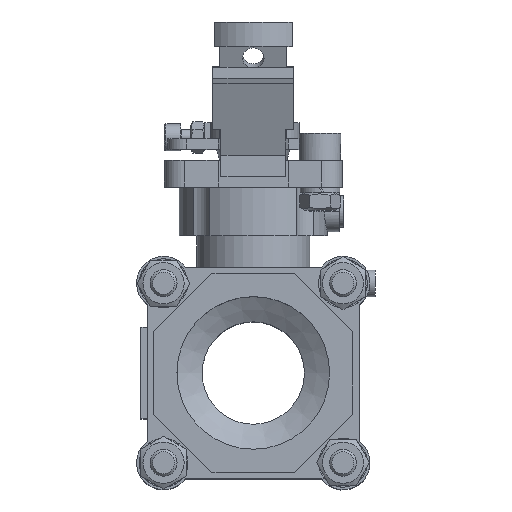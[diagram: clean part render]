
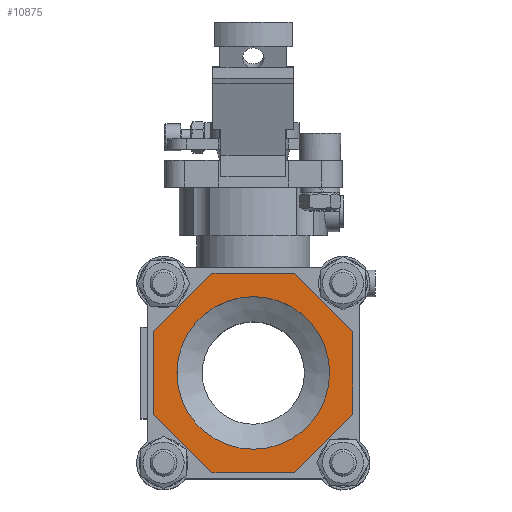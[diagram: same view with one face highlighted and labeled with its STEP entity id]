
A CAD part, top view. The second image highlights one B-rep face of the part: STEP entity #10875.
In plain terms, the highlighted planar face has unit normal (0, 0, 1).
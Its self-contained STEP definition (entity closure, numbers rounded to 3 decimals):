
#391=FACE_BOUND('',#1947,.T.);
#596=PLANE('',#11720);
#1286=FACE_OUTER_BOUND('',#1946,.T.);
#1946=EDGE_LOOP('',(#8753,#8754,#8755,#8756,#8757,#8758,#8759,#8760));
#1947=EDGE_LOOP('',(#8761,#8762));
#2570=CIRCLE('',#11695,28.328);
#2571=CIRCLE('',#11696,28.328);
#3261=LINE('',#17417,#4180);
#3263=LINE('',#17421,#4182);
#3265=LINE('',#17425,#4184);
#3267=LINE('',#17429,#4186);
#3269=LINE('',#17433,#4188);
#3271=LINE('',#17437,#4190);
#3273=LINE('',#17441,#4192);
#3275=LINE('',#17444,#4194);
#4180=VECTOR('',#13689,10.);
#4182=VECTOR('',#13693,10.);
#4184=VECTOR('',#13697,10.);
#4186=VECTOR('',#13701,10.);
#4188=VECTOR('',#13705,10.);
#4190=VECTOR('',#13709,10.);
#4192=VECTOR('',#13713,10.);
#4194=VECTOR('',#13717,10.);
#5201=VERTEX_POINT('',#17382);
#5202=VERTEX_POINT('',#17384);
#5210=VERTEX_POINT('',#17414);
#5211=VERTEX_POINT('',#17416);
#5212=VERTEX_POINT('',#17420);
#5213=VERTEX_POINT('',#17424);
#5214=VERTEX_POINT('',#17428);
#5215=VERTEX_POINT('',#17432);
#5216=VERTEX_POINT('',#17436);
#5217=VERTEX_POINT('',#17440);
#6472=EDGE_CURVE('',#5202,#5201,#2570,.T.);
#6473=EDGE_CURVE('',#5201,#5202,#2571,.T.);
#6490=EDGE_CURVE('',#5211,#5210,#3261,.T.);
#6492=EDGE_CURVE('',#5212,#5211,#3263,.T.);
#6494=EDGE_CURVE('',#5213,#5212,#3265,.T.);
#6496=EDGE_CURVE('',#5214,#5213,#3267,.T.);
#6498=EDGE_CURVE('',#5215,#5214,#3269,.T.);
#6500=EDGE_CURVE('',#5216,#5215,#3271,.T.);
#6502=EDGE_CURVE('',#5217,#5216,#3273,.T.);
#6504=EDGE_CURVE('',#5210,#5217,#3275,.T.);
#8753=ORIENTED_EDGE('',*,*,#6504,.T.);
#8754=ORIENTED_EDGE('',*,*,#6502,.T.);
#8755=ORIENTED_EDGE('',*,*,#6500,.T.);
#8756=ORIENTED_EDGE('',*,*,#6498,.T.);
#8757=ORIENTED_EDGE('',*,*,#6496,.T.);
#8758=ORIENTED_EDGE('',*,*,#6494,.T.);
#8759=ORIENTED_EDGE('',*,*,#6492,.T.);
#8760=ORIENTED_EDGE('',*,*,#6490,.T.);
#8761=ORIENTED_EDGE('',*,*,#6472,.T.);
#8762=ORIENTED_EDGE('',*,*,#6473,.T.);
#10875=ADVANCED_FACE('',(#1286,#391),#596,.T.);
#11695=AXIS2_PLACEMENT_3D('',#17385,#13648,#13649);
#11696=AXIS2_PLACEMENT_3D('',#17386,#13650,#13651);
#11720=AXIS2_PLACEMENT_3D('',#17445,#13718,#13719);
#13648=DIRECTION('center_axis',(0.,0.,-1.));
#13649=DIRECTION('ref_axis',(1.,0.,0.));
#13650=DIRECTION('center_axis',(0.,0.,-1.));
#13651=DIRECTION('ref_axis',(1.,0.,0.));
#13689=DIRECTION('',(0.,1.,0.));
#13693=DIRECTION('',(0.707,0.707,0.));
#13697=DIRECTION('',(1.,0.,0.));
#13701=DIRECTION('',(0.707,-0.707,0.));
#13705=DIRECTION('',(0.,-1.,0.));
#13709=DIRECTION('',(-0.707,-0.707,0.));
#13713=DIRECTION('',(-1.,0.,0.));
#13717=DIRECTION('',(-0.707,0.707,0.));
#13718=DIRECTION('center_axis',(0.,0.,1.));
#13719=DIRECTION('ref_axis',(1.,0.,0.));
#17382=CARTESIAN_POINT('',(-45.749,-5.627,64.5));
#17384=CARTESIAN_POINT('',(10.907,-5.627,64.5));
#17385=CARTESIAN_POINT('Origin',(-17.421,-5.627,64.5));
#17386=CARTESIAN_POINT('Origin',(-17.421,-5.627,64.5));
#17414=CARTESIAN_POINT('',(19.579,9.699,64.5));
#17416=CARTESIAN_POINT('',(19.579,-20.953,64.5));
#17417=CARTESIAN_POINT('',(19.579,9.699,64.5));
#17420=CARTESIAN_POINT('',(-2.095,-42.627,64.5));
#17421=CARTESIAN_POINT('',(19.579,-20.953,64.5));
#17424=CARTESIAN_POINT('',(-32.747,-42.627,64.5));
#17425=CARTESIAN_POINT('',(-2.095,-42.627,64.5));
#17428=CARTESIAN_POINT('',(-54.421,-20.953,64.5));
#17429=CARTESIAN_POINT('',(-32.747,-42.627,64.5));
#17432=CARTESIAN_POINT('',(-54.421,9.699,64.5));
#17433=CARTESIAN_POINT('',(-54.421,-20.953,64.5));
#17436=CARTESIAN_POINT('',(-32.747,31.373,64.5));
#17437=CARTESIAN_POINT('',(-54.421,9.699,64.5));
#17440=CARTESIAN_POINT('',(-2.095,31.373,64.5));
#17441=CARTESIAN_POINT('',(-32.747,31.373,64.5));
#17444=CARTESIAN_POINT('',(-2.095,31.373,64.5));
#17445=CARTESIAN_POINT('Origin',(-17.421,-5.627,64.5));
